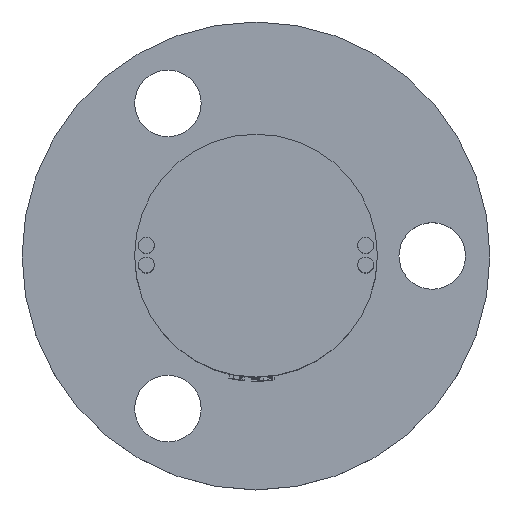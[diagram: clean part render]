
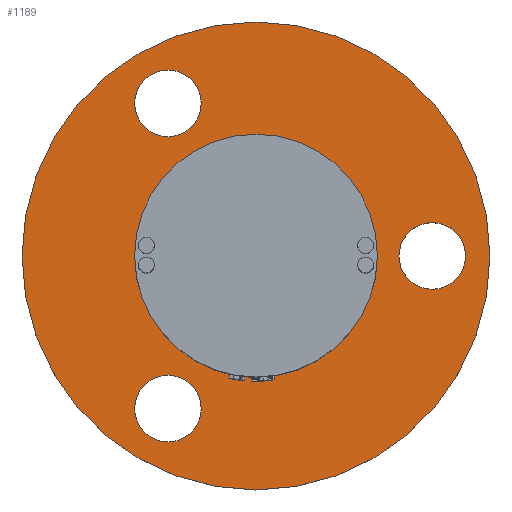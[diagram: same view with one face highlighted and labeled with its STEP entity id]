
A CAD part, top view. The second image highlights one B-rep face of the part: STEP entity #1189.
In plain terms, the highlighted planar face has unit normal (0, 0, 1).
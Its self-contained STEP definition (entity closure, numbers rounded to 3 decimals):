
#137=FACE_BOUND('',#3620,.T.);
#138=FACE_BOUND('',#3621,.T.);
#139=FACE_BOUND('',#3622,.T.);
#140=FACE_BOUND('',#3623,.T.);
#141=FACE_BOUND('',#3624,.T.);
#250=CIRCLE('',#13380,6.2);
#251=CIRCLE('',#13382,1.7);
#252=CIRCLE('',#13383,1.7);
#253=CIRCLE('',#13384,1.7);
#254=CIRCLE('',#13385,11.95);
#538=PLANE('',#13386);
#1189=ADVANCED_FACE('',(#137,#138,#139,#140,#141),#538,.T.);
#3620=EDGE_LOOP('',(#6429));
#3621=EDGE_LOOP('',(#6430));
#3622=EDGE_LOOP('',(#6431));
#3623=EDGE_LOOP('',(#6432));
#3624=EDGE_LOOP('',(#6433));
#6429=ORIENTED_EDGE('',*,*,#10571,.F.);
#6430=ORIENTED_EDGE('',*,*,#10572,.F.);
#6431=ORIENTED_EDGE('',*,*,#10573,.F.);
#6432=ORIENTED_EDGE('',*,*,#10574,.F.);
#6433=ORIENTED_EDGE('',*,*,#10575,.F.);
#8757=VERTEX_POINT('',#26630);
#8758=VERTEX_POINT('',#26633);
#8759=VERTEX_POINT('',#26635);
#8760=VERTEX_POINT('',#26637);
#8761=VERTEX_POINT('',#26639);
#10571=EDGE_CURVE('',#8757,#8757,#250,.T.);
#10572=EDGE_CURVE('',#8758,#8758,#251,.T.);
#10573=EDGE_CURVE('',#8759,#8759,#252,.T.);
#10574=EDGE_CURVE('',#8760,#8760,#253,.T.);
#10575=EDGE_CURVE('',#8761,#8761,#254,.T.);
#13380=AXIS2_PLACEMENT_3D('',#26629,#14513,#14514);
#13382=AXIS2_PLACEMENT_3D('',#26632,#14517,#14518);
#13383=AXIS2_PLACEMENT_3D('',#26634,#14519,#14520);
#13384=AXIS2_PLACEMENT_3D('',#26636,#14521,#14522);
#13385=AXIS2_PLACEMENT_3D('',#26638,#14523,#14524);
#13386=AXIS2_PLACEMENT_3D('',#26640,#14525,#14526);
#14513=DIRECTION('',(0.,0.,1.));
#14514=DIRECTION('',(1.,0.,0.));
#14517=DIRECTION('',(0.,0.,1.));
#14518=DIRECTION('',(1.,0.,0.));
#14519=DIRECTION('',(0.,0.,1.));
#14520=DIRECTION('',(1.,0.,0.));
#14521=DIRECTION('',(0.,0.,1.));
#14522=DIRECTION('',(1.,0.,0.));
#14523=DIRECTION('',(0.,0.,-1.));
#14524=DIRECTION('',(1.,0.,0.));
#14525=DIRECTION('',(0.,0.,1.));
#14526=DIRECTION('',(1.,0.,0.));
#26629=CARTESIAN_POINT('',(0.,0.,5.5));
#26630=CARTESIAN_POINT('',(6.2,0.,5.5));
#26632=CARTESIAN_POINT('',(9.,0.,5.5));
#26633=CARTESIAN_POINT('',(10.7,0.,5.5));
#26634=CARTESIAN_POINT('',(-4.5,7.794,5.5));
#26635=CARTESIAN_POINT('',(-2.8,7.794,5.5));
#26636=CARTESIAN_POINT('',(-4.5,-7.794,5.5));
#26637=CARTESIAN_POINT('',(-2.8,-7.794,5.5));
#26638=CARTESIAN_POINT('',(0.,0.,5.5));
#26639=CARTESIAN_POINT('',(11.95,0.,5.5));
#26640=CARTESIAN_POINT('',(0.,0.,5.5));
